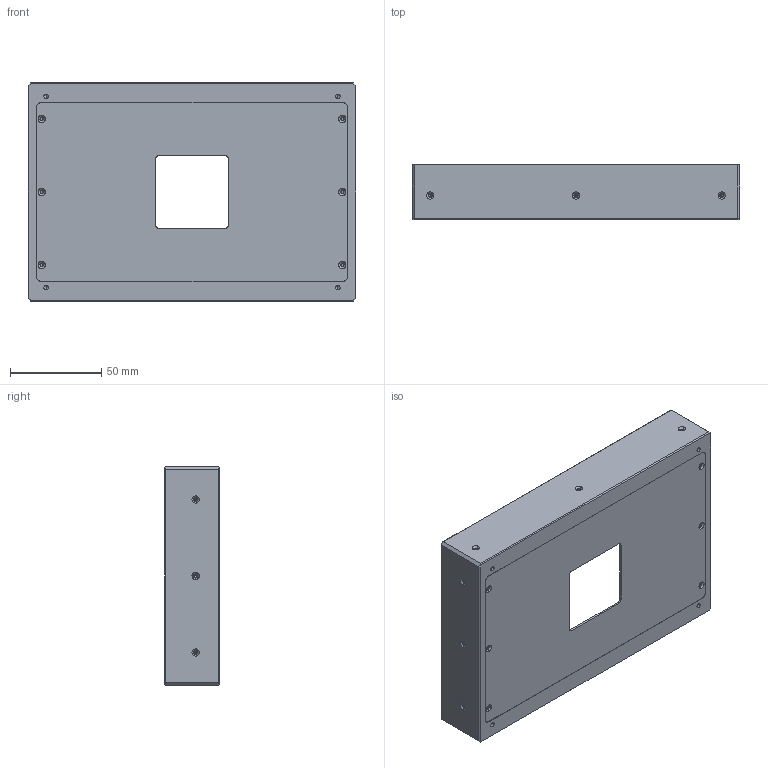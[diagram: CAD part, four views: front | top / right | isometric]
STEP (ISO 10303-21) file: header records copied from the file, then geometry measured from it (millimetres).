
FILE_DESCRIPTION (( 'STEP AP214' ), '1' );
FILE_NAME ('CST-FQS180120-¼òÒ×3DÍ¼.STEP', '2021-06-10T11:07:42', ( '' ), ( '' ), 'SwSTEP 2.0', 'SolidWorks 2018', '' );
FILE_SCHEMA (( 'AUTOMOTIVE_DESIGN' ));
Length unit declared in the file: millimetre
Products named in the file (1): CST-FQS180120-潠眢3D芞
Bounding box: 180 x 30 x 120 mm (x, y, z)
Volume: 132314.8 mm3; surface area: 119108.8 mm2
Topology: 3 solids, 3 shells, 297 faces, 754 edges, 450 vertices
Faces by surface type: cylinder 124, plane 87, cone 86
Entity records: 12121 total; most frequent: DIRECTION 1624, CARTESIAN_POINT 1470, ORIENTED_EDGE 1444, EDGE_CURVE 722, AXIS2_PLACEMENT_3D 604, VERTEX_POINT 450, VECTOR 416, LINE 416
